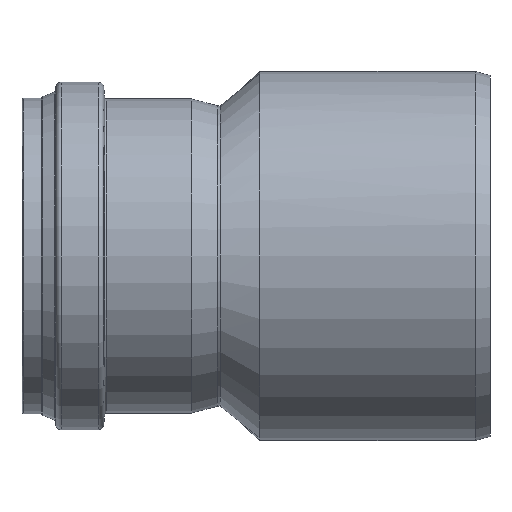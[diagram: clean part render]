
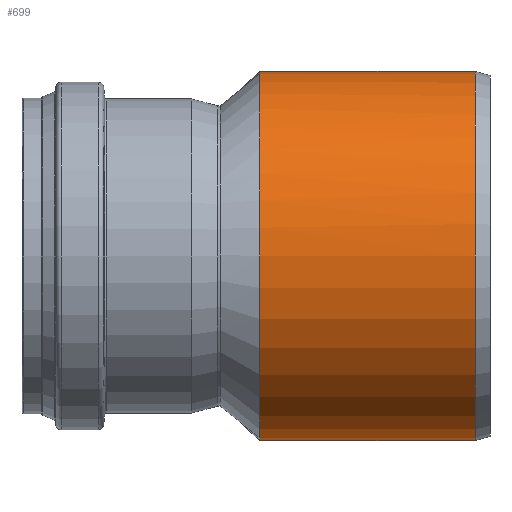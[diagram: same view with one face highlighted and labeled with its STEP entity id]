
A CAD part, left-side view. The second image highlights one B-rep face of the part: STEP entity #699.
In plain terms, the highlighted cylindrical face has radius 100.15 mm (diameter 200.3 mm), a full revolution.
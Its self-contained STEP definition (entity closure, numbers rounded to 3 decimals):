
#66=LINE('',#1365,#88);
#88=VECTOR('',#1111,100.15);
#99=CYLINDRICAL_SURFACE('',#844,100.15);
#138=FACE_OUTER_BOUND('',#180,.T.);
#180=EDGE_LOOP('',(#651,#652,#653,#654,#655,#656));
#191=CIRCLE('',#733,100.15);
#192=CIRCLE('',#734,100.15);
#193=CIRCLE('',#735,100.15);
#266=CIRCLE('',#842,100.15);
#276=VERTEX_POINT('',#1172);
#277=VERTEX_POINT('',#1174);
#278=VERTEX_POINT('',#1176);
#336=VERTEX_POINT('',#1359);
#349=EDGE_CURVE('',#276,#277,#191,.T.);
#350=EDGE_CURVE('',#277,#278,#192,.T.);
#351=EDGE_CURVE('',#278,#276,#193,.T.);
#441=EDGE_CURVE('',#336,#336,#266,.T.);
#444=EDGE_CURVE('',#277,#336,#66,.T.);
#651=ORIENTED_EDGE('',*,*,#351,.F.);
#652=ORIENTED_EDGE('',*,*,#350,.F.);
#653=ORIENTED_EDGE('',*,*,#444,.T.);
#654=ORIENTED_EDGE('',*,*,#441,.T.);
#655=ORIENTED_EDGE('',*,*,#444,.F.);
#656=ORIENTED_EDGE('',*,*,#349,.F.);
#699=ADVANCED_FACE('',(#138),#99,.T.);
#733=AXIS2_PLACEMENT_3D('',#1175,#869,#870);
#734=AXIS2_PLACEMENT_3D('',#1177,#871,#872);
#735=AXIS2_PLACEMENT_3D('',#1178,#873,#874);
#842=AXIS2_PLACEMENT_3D('',#1360,#1104,#1105);
#844=AXIS2_PLACEMENT_3D('',#1364,#1109,#1110);
#869=DIRECTION('center_axis',(0.,1.,0.));
#870=DIRECTION('ref_axis',(1.,0.,0.));
#871=DIRECTION('center_axis',(0.,1.,0.));
#872=DIRECTION('ref_axis',(1.,0.,0.));
#873=DIRECTION('center_axis',(0.,1.,0.));
#874=DIRECTION('ref_axis',(1.,0.,0.));
#1104=DIRECTION('center_axis',(0.,1.,0.));
#1105=DIRECTION('ref_axis',(1.,0.,0.));
#1109=DIRECTION('center_axis',(0.,1.,0.));
#1110=DIRECTION('ref_axis',(-1.,0.,0.));
#1111=DIRECTION('',(0.,-1.,0.));
#1172=CARTESIAN_POINT('',(-33.383,125.,94.422));
#1174=CARTESIAN_POINT('',(100.15,125.,0.));
#1175=CARTESIAN_POINT('Origin',(0.,125.,0.));
#1176=CARTESIAN_POINT('',(-100.15,125.,0.));
#1177=CARTESIAN_POINT('Origin',(0.,125.,0.));
#1178=CARTESIAN_POINT('Origin',(0.,125.,0.));
#1359=CARTESIAN_POINT('',(100.15,8.,0.));
#1360=CARTESIAN_POINT('Origin',(0.,8.,0.));
#1364=CARTESIAN_POINT('Origin',(0.,66.5,0.));
#1365=CARTESIAN_POINT('',(100.15,66.5,0.));
